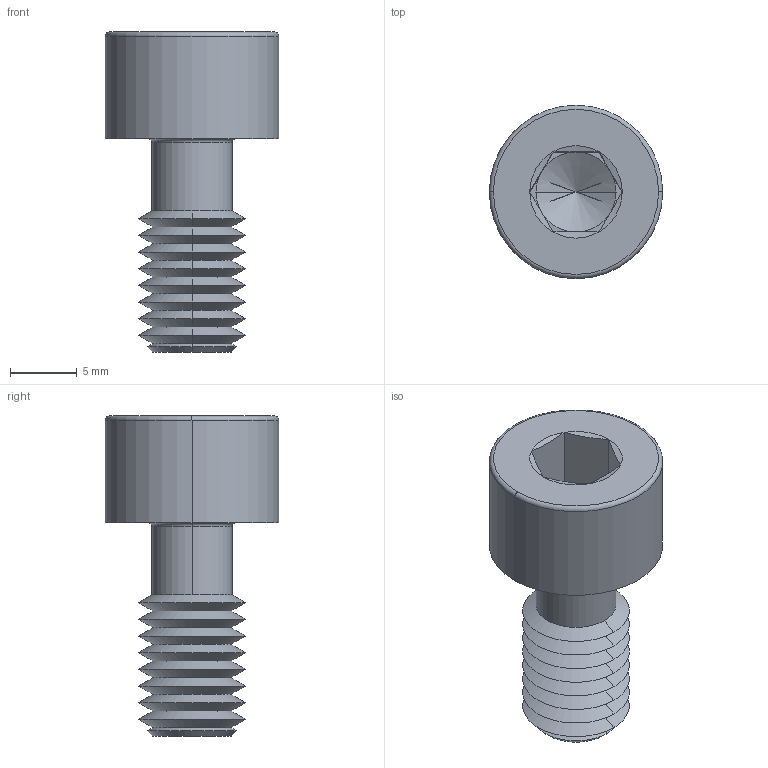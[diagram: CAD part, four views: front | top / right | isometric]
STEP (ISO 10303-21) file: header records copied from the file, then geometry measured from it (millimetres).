
FILE_DESCRIPTION (( 'STEP AP203' ), '1' );
FILE_NAME ('P0154.080-016-BL.step', '2024-06-17T11:30:48', ( '' ), ( '' ), 'SwSTEP 2.0', 'SolidWorks 2019', '' );
FILE_SCHEMA (( 'CONFIG_CONTROL_DESIGN' ));
Length unit declared in the file: millimetre
Products named in the file (1): P0154.080-016-BL
Bounding box: 13 x 13 x 24 mm (x, y, z)
Volume: 1407.8 mm3; surface area: 1265.7 mm2
Topology: 1 solids, 1 shells, 67 faces, 136 edges, 71 vertices
Faces by surface type: cone 44, plane 15, torus 4, cylinder 4
Entity records: 1787 total; most frequent: DIRECTION 332, CARTESIAN_POINT 299, ORIENTED_EDGE 268, AXIS2_PLACEMENT_3D 136, EDGE_CURVE 134, VERTEX_POINT 71, EDGE_LOOP 69, CIRCLE 68
